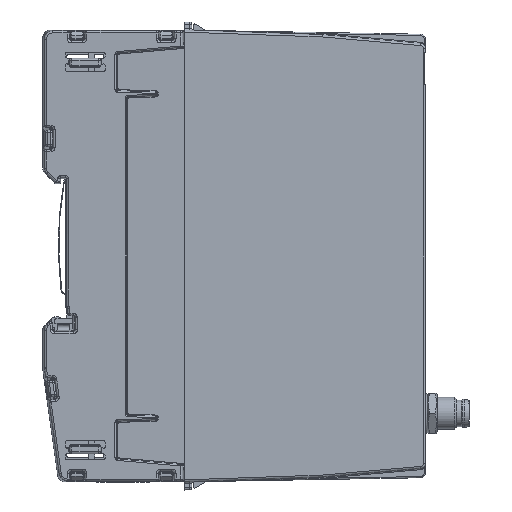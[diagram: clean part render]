
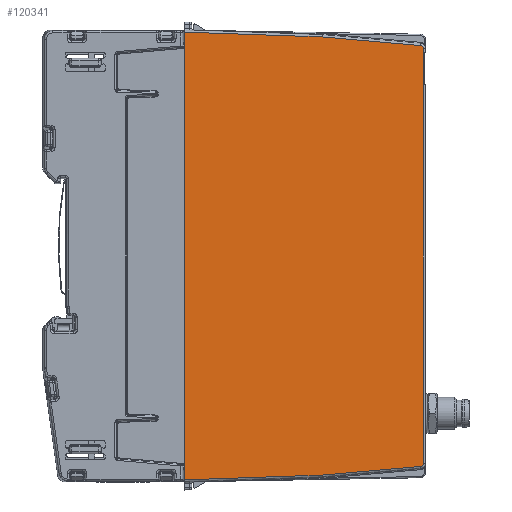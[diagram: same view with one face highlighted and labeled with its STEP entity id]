
A CAD part, left-side view. The second image highlights one B-rep face of the part: STEP entity #120341.
In plain terms, the highlighted planar face has unit normal (-1, -0.018, 0).
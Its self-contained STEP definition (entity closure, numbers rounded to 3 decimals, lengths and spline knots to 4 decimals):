
#11472=FACE_OUTER_BOUND('',#18116,.T.);
#18116=EDGE_LOOP('',(#97126,#97127,#97128,#97129,#97130,#97131,#97132,#97133,
#97134,#97135));
#29150=LINE('',#204865,#40876);
#29151=LINE('',#204871,#40877);
#29152=LINE('',#204873,#40878);
#29153=LINE('',#204875,#40879);
#29154=LINE('',#204876,#40880);
#29155=LINE('',#204878,#40881);
#29156=LINE('',#204882,#40882);
#29157=LINE('',#204885,#40883);
#40876=VECTOR('',#154530,39.3701);
#40877=VECTOR('',#154537,39.3701);
#40878=VECTOR('',#154538,39.3701);
#40879=VECTOR('',#154539,39.3701);
#40880=VECTOR('',#154540,39.3701);
#40881=VECTOR('',#154541,39.3701);
#40882=VECTOR('',#154544,39.3701);
#40883=VECTOR('',#154547,39.3701);
#44485=ELLIPSE('',#128868,0.0315,0.0315);
#44486=ELLIPSE('',#128869,0.0315,0.0315);
#52995=VERTEX_POINT('',#204863);
#52996=VERTEX_POINT('',#204864);
#52997=VERTEX_POINT('',#204869);
#52998=VERTEX_POINT('',#204870);
#52999=VERTEX_POINT('',#204872);
#53000=VERTEX_POINT('',#204874);
#53001=VERTEX_POINT('',#204877);
#53002=VERTEX_POINT('',#204879);
#53003=VERTEX_POINT('',#204881);
#53004=VERTEX_POINT('',#204883);
#68135=EDGE_CURVE('',#52995,#52996,#29150,.T.);
#68138=EDGE_CURVE('',#52997,#52998,#29151,.T.);
#68139=EDGE_CURVE('',#52998,#52999,#29152,.T.);
#68140=EDGE_CURVE('',#53000,#52999,#29153,.T.);
#68141=EDGE_CURVE('',#53000,#52995,#29154,.T.);
#68142=EDGE_CURVE('',#52996,#53001,#29155,.T.);
#68143=EDGE_CURVE('',#53001,#53002,#44485,.T.);
#68144=EDGE_CURVE('',#53002,#53003,#29156,.T.);
#68145=EDGE_CURVE('',#53003,#53004,#44486,.T.);
#68146=EDGE_CURVE('',#53004,#52997,#29157,.T.);
#97126=ORIENTED_EDGE('',*,*,#68138,.T.);
#97127=ORIENTED_EDGE('',*,*,#68139,.T.);
#97128=ORIENTED_EDGE('',*,*,#68140,.F.);
#97129=ORIENTED_EDGE('',*,*,#68141,.T.);
#97130=ORIENTED_EDGE('',*,*,#68135,.T.);
#97131=ORIENTED_EDGE('',*,*,#68142,.T.);
#97132=ORIENTED_EDGE('',*,*,#68143,.T.);
#97133=ORIENTED_EDGE('',*,*,#68144,.T.);
#97134=ORIENTED_EDGE('',*,*,#68145,.T.);
#97135=ORIENTED_EDGE('',*,*,#68146,.T.);
#108943=PLANE('',#128867);
#120341=ADVANCED_FACE('',(#11472),#108943,.T.);
#128867=AXIS2_PLACEMENT_3D('',#204868,#154535,#154536);
#128868=AXIS2_PLACEMENT_3D('',#204880,#154542,#154543);
#128869=AXIS2_PLACEMENT_3D('',#204884,#154545,#154546);
#154530=DIRECTION('',(0.017,-0.999,0.035));
#154535=DIRECTION('center_axis',(-1.,-0.017,
0.));
#154536=DIRECTION('ref_axis',(-0.017,1.,0.));
#154537=DIRECTION('',(-0.017,0.999,0.035));
#154538=DIRECTION('',(0.,0.,-1.));
#154539=DIRECTION('',(0.,0.,1.));
#154540=DIRECTION('',(0.,0.,-1.));
#154541=DIRECTION('',(0.017,-0.996,0.087));
#154542=DIRECTION('center_axis',(-1.,-0.017,
0.));
#154543=DIRECTION('ref_axis',(0.017,-1.,0.));
#154544=DIRECTION('',(0.,0.,1.));
#154545=DIRECTION('center_axis',(-1.,-0.017,
0.));
#154546=DIRECTION('ref_axis',(0.017,-1.,0.));
#154547=DIRECTION('',(-0.017,0.996,0.087));
#204863=CARTESIAN_POINT('',(-0.0227,-0.8686,-4.2421));
#204864=CARTESIAN_POINT('',(0.0007,-2.2063,-4.1954));
#204865=CARTESIAN_POINT('',(-0.0282,-0.5512,-4.2532));
#204868=CARTESIAN_POINT('Origin',(-0.0295,-0.4749,
-2.0669));
#204869=CARTESIAN_POINT('',(0.0007,-2.2063,0.0616));
#204870=CARTESIAN_POINT('',(-0.0227,-0.8686,0.1083));
#204871=CARTESIAN_POINT('',(-0.0282,-0.5512,0.1194));
#204872=CARTESIAN_POINT('',(-0.0227,-0.8686,-0.0312));
#204873=CARTESIAN_POINT('',(-0.0227,-0.8686,0.128));
#204874=CARTESIAN_POINT('',(-0.0227,-0.8686,-4.1027));
#204875=CARTESIAN_POINT('',(-0.0227,-0.8686,-7.5932));
#204876=CARTESIAN_POINT('',(-0.0227,-0.8686,0.128));
#204877=CARTESIAN_POINT('',(0.0174,-3.163,-4.1117));
#204878=CARTESIAN_POINT('',(-0.0261,-0.6728,-4.3296));
#204879=CARTESIAN_POINT('',(0.0179,-3.1918,-4.0803));
#204880=CARTESIAN_POINT('Origin',(0.0173,-3.1603,-4.0803));
#204881=CARTESIAN_POINT('',(0.0179,-3.1918,-0.0535));
#204882=CARTESIAN_POINT('',(0.0179,-3.1918,-0.0535));
#204883=CARTESIAN_POINT('',(0.0174,-3.163,-0.0221));
#204884=CARTESIAN_POINT('Origin',(0.0173,-3.1603,
-0.0535));
#204885=CARTESIAN_POINT('',(-0.0261,-0.6728,0.1957));
